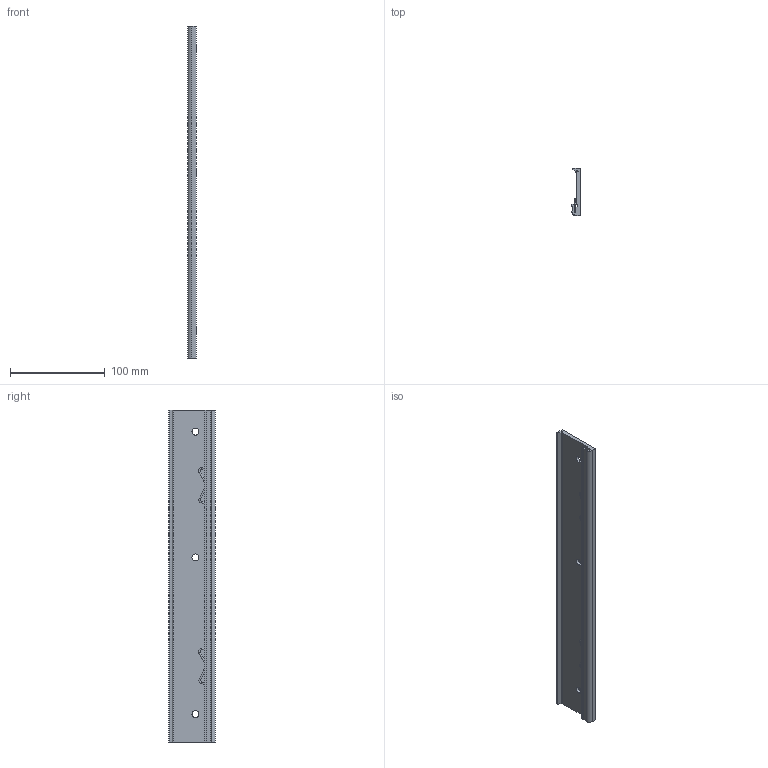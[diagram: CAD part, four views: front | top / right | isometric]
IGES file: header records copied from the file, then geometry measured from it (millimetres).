
Start section:  PTC IGES file: cu_ni-9916.igs
Global section: file name: cu_ni-9916.igs; native system: Creo Parametric by PTC Inc.; preprocessor: 2015380; author: dkendric; organization: Unknown; date: 20180302.151530; units: inch
Bounding box: 8.97 x 49.33 x 350.01 mm (x, y, z)
Surface area: 51731.6 mm2 (no closed solid volume)
Topology: 0 solids, 0 shells, 78 faces, 380 edges, 380 vertices
Faces by surface type: revolution 53, bspline 25
